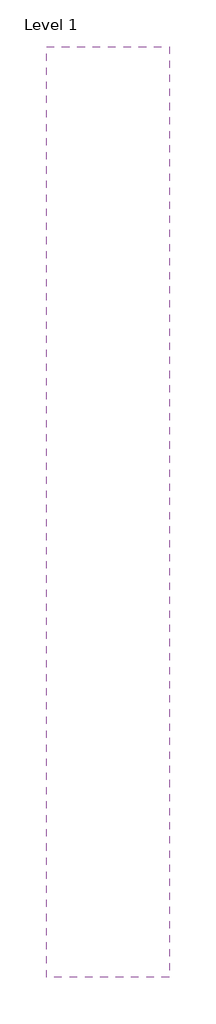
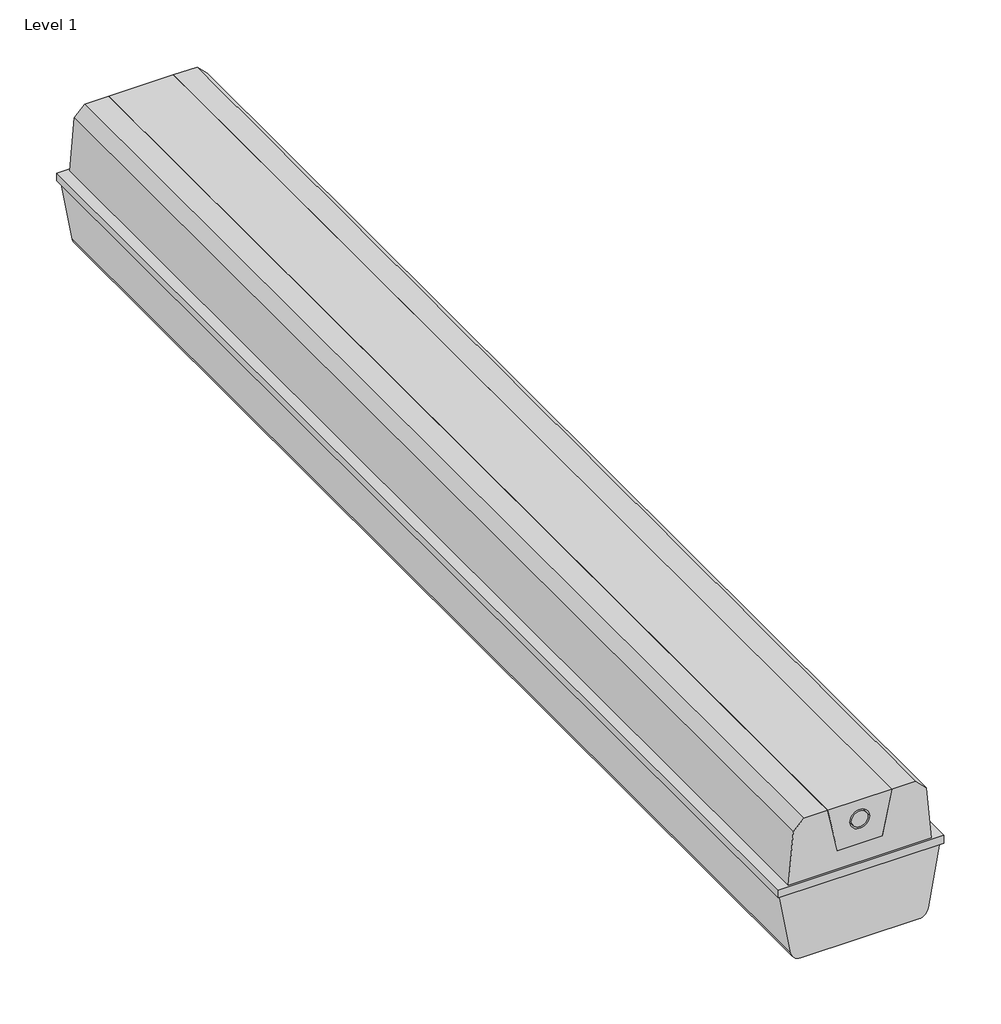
# One storey: 1 light fixture.
"""IFC4 building model written with IfcOpenShell, lengths in millimetres."""

from ifc_helpers import new_model, si_unit, origin, place, context, project, spatial, transform, mapped, element, save
from components import dw4_36led_dw4_36led_71b24324

model = new_model("IFC4")

# Units and contexts
model_context = context("Model", 3, world=origin())
ifc_project = project(units=[si_unit("LENGTHUNIT", "METRE", prefix="MILLI")], contexts=[model_context])

# Site, building, storey
site = spatial("IfcSite", under=ifc_project)
building = spatial("IfcBuilding", under=site)
storey = spatial("IfcBuildingStorey", under=building, Name="Level 1", Elevation=0.0)

# Light fixture
placement = place(None, origin())
dw4_36led_dw4_36led_shape = dw4_36led_dw4_36led_71b24324(model_context)
element("IfcLightFixture", 1, ObjectType="DW4-36LED : DW4_36LED", at=placement, inside=storey, context=model_context, shape_type="MappedRepresentation", body=[
    mapped(dw4_36led_dw4_36led_shape, transform((-9236.179004, 6389.3132781, 6600.0), x_axis=(1.0, 0.0, 0.0), y_axis=(0.0, -1.0, 0.0), z_axis=(0.0, 0.0, -1.0))),
])

save(model, "model.ifc")
